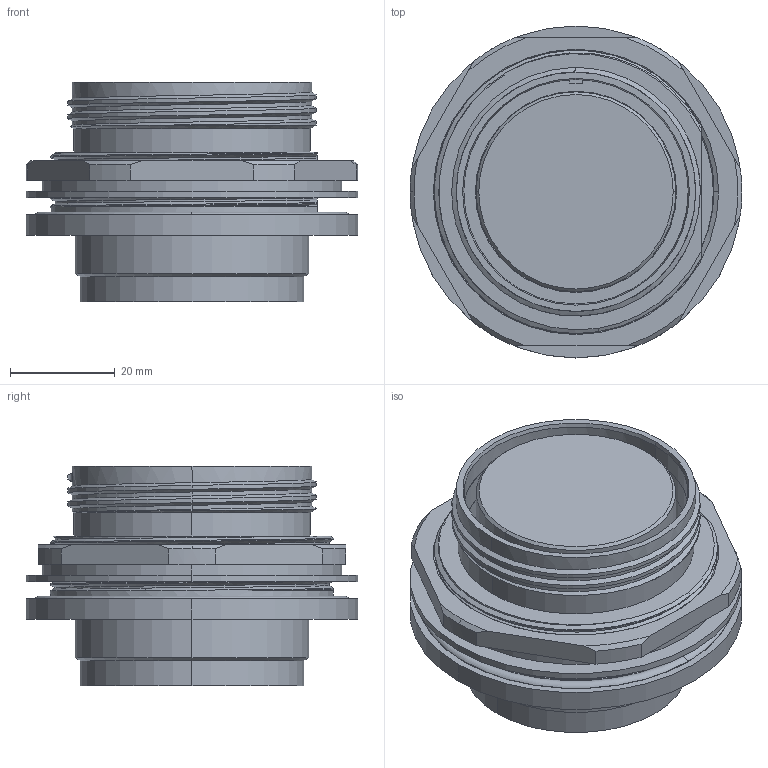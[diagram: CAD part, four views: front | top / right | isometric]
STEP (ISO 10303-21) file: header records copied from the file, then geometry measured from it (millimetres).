
FILE_DESCRIPTION (( 'STEP AP214' ), '1' );
FILE_NAME ('QLINK-RJTX-29XX-S00.STEP', '2025-09-30T21:50:42', ( '' ), ( '' ), 'SwSTEP 2.0', 'SolidWorks 2024', '' );
FILE_SCHEMA (( 'AUTOMOTIVE_DESIGN' ));
Length unit declared in the file: inch
Products named in the file (1): QLINK-RJTX-29XX-S00
Bounding box: 63.25 x 63.25 x 41.91 mm (x, y, z)
Volume: 71334.7 mm3; surface area: 26395.8 mm2
Topology: 3 solids, 3 shells, 177 faces, 457 edges, 295 vertices
Faces by surface type: cylinder 74, plane 34, cone 28, bspline 27, torus 14
Entity records: 12903 total; most frequent: CARTESIAN_POINT 8875, ORIENTED_EDGE 914, DIRECTION 762, EDGE_CURVE 457, AXIS2_PLACEMENT_3D 313, VERTEX_POINT 295, EDGE_LOOP 194, FACE_OUTER_BOUND 177
